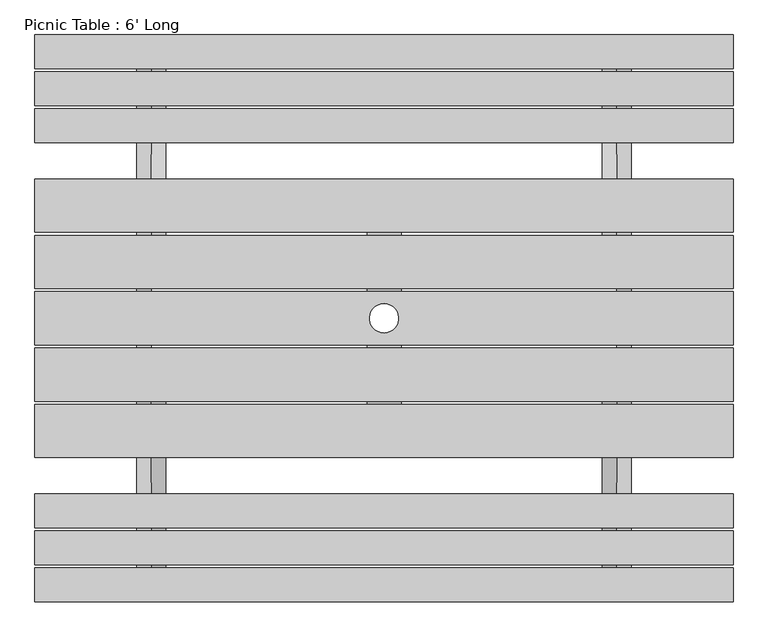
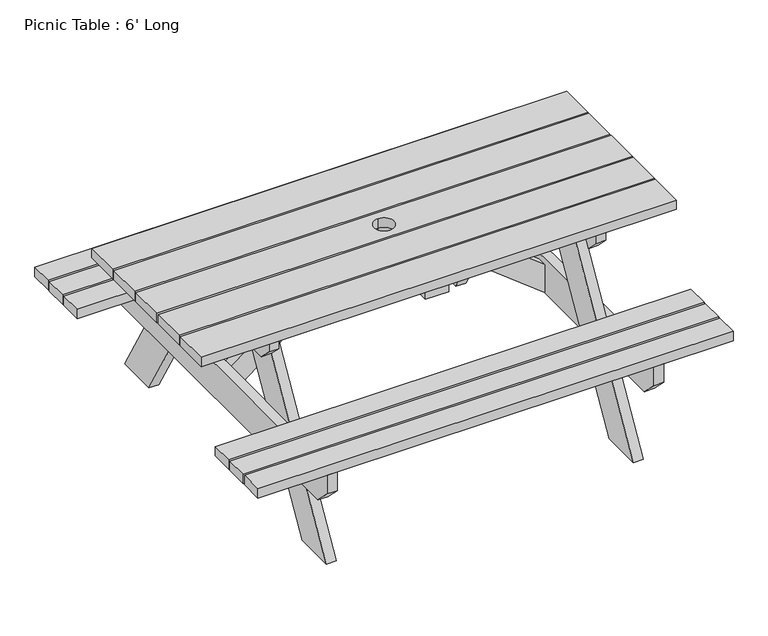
"""IFC4 building model written with IfcOpenShell, lengths in millimetres: furniture geometry, Picnic Table : 6' Long."""

import ifcopenshell
import ifcopenshell.guid

model = None  # the IFC model being written
_history = None  # IfcOwnerHistory: only IFC2X3 demands one
_inside = {}  # id of a spatial element -> (the spatial element, [elements in it])
_under = {}  # id of a project, library or spatial element -> (it, [spatial elements below it])
_declared = {}  # id of a project -> (the project, [libraries it declares])
_typed = {}  # id of a type object -> (the type object, [elements of that type])
_made_of = {}  # id of a material, layer set ... -> (it, [elements and type objects made of it])


def new_model(schema):
    """Start an empty IFC model of exactly this schema.

    Asked for "IFC4X3", IfcOpenShell would pick the latest addendum, in which some entities
    have other attributes; the version numbers below select the first issue.
    IFC2X3 requires an IfcOwnerHistory on every rooted entity: one is made here for all.
    """
    global model, _history
    if schema == "IFC4X3":
        model = ifcopenshell.file(schema_version=(4, 3, 0, 0))
    else:
        model = ifcopenshell.file(schema=schema)
    _inside.clear()
    _under.clear()
    _declared.clear()
    _typed.clear()
    _made_of.clear()
    _history = None
    if model.schema == "IFC2X3":
        org = make("IfcOrganization", Name="unknown")
        user = make(
            "IfcPersonAndOrganization",
            ThePerson=make("IfcPerson", FamilyName="unknown"),
            TheOrganization=org,
        )
        app = make(
            "IfcApplication",
            ApplicationDeveloper=org,
            Version="unknown",
            ApplicationFullName="unknown",
            ApplicationIdentifier="unknown",
        )
        _history = make(
            "IfcOwnerHistory",
            OwningUser=user,
            OwningApplication=app,
            ChangeAction="ADDED",
            CreationDate=0,
        )
    return model


def make(cls, **values):
    """One entity of the class cls with the attributes given. An attribute that is None is left unset."""
    return model.create_entity(
        cls, **{name: value for name, value in values.items() if value is not None}
    )


def rooted(cls, **values):
    """An entity with a GlobalId (a new one), such as an element, a storey or a relation."""
    return make(cls, GlobalId=ifcopenshell.guid.new(), OwnerHistory=_history, **values)


def si_unit(unit_type, name, prefix=None):
    """IfcSIUnit, for example si_unit("LENGTHUNIT", "METRE", prefix="MILLI")."""
    return make("IfcSIUnit", UnitType=unit_type, Prefix=prefix, Name=name)


def assignment(units):
    """IfcUnitAssignment: the units of a project."""
    return None if units is None else make("IfcUnitAssignment", Units=units)


def point(xyz):
    """IfcCartesianPoint."""
    return None if xyz is None else make("IfcCartesianPoint", Coordinates=xyz)


def direction(xyz):
    """IfcDirection."""
    return None if xyz is None else make("IfcDirection", DirectionRatios=xyz)


def frame(location, z_axis=None, x_axis=None):
    """IfcAxis2Placement3D, a coordinate frame: its origin and axes. An axis left out is left unset."""
    return make(
        "IfcAxis2Placement3D",
        Location=point(location),
        Axis=direction(z_axis),
        RefDirection=direction(x_axis),
    )


def frame_2d(location, x_axis=None):
    """IfcAxis2Placement2D, a coordinate frame in the plane: its origin and x axis."""
    return make(
        "IfcAxis2Placement2D", Location=point(location), RefDirection=direction(x_axis)
    )


def origin():
    """The frame at (0, 0, 0) with its axes left unset."""
    return frame((0.0, 0.0, 0.0))


def origin_2d():
    """The frame at (0, 0) in the plane with its x axis left unset."""
    return frame_2d((0.0, 0.0))


def place(relative_to, where):
    """IfcLocalPlacement: puts the frame where relative to a parent placement (None: the world)."""
    return make(
        "IfcLocalPlacement", PlacementRelTo=relative_to, RelativePlacement=where
    )


def context(
    kind, dimensions, precision=None, world=None, true_north=None, identifier=None
):
    """IfcGeometricRepresentationContext, for example the 3D "Model" context."""
    return make(
        "IfcGeometricRepresentationContext",
        ContextIdentifier=identifier,
        ContextType=kind,
        CoordinateSpaceDimension=dimensions,
        Precision=precision,
        WorldCoordinateSystem=world,
        TrueNorth=true_north,
    )


def project(units=None, contexts=None):
    """IfcProject with its units and contexts."""
    return rooted(
        "IfcProject",
        Name="project",
        RepresentationContexts=contexts,
        UnitsInContext=assignment(units),
    )


def spatial(cls, under=None, at=None, **own):
    """A site, building, storey or space (cls), placed at a placement, below another one or the project."""
    s = rooted(cls, ObjectPlacement=at, **own)
    if under is not None:
        _under.setdefault(under.id(), (under, []))[1].append(s)
    return s


def polyline(points):
    """IfcPolyline through the points."""
    return make("IfcPolyline", Points=[point(p) for p in points])


def circle_curve(where, radius):
    """IfcCircle in the frame where."""
    return make("IfcCircle", Position=where, Radius=radius)


def trimmed(basis, trim1, trim2, sense, master):
    """IfcTrimmedCurve: the piece of a basis curve between two trims."""
    return make(
        "IfcTrimmedCurve",
        BasisCurve=basis,
        Trim1=trim1,
        Trim2=trim2,
        SenseAgreement=sense,
        MasterRepresentation=master,
    )


def segment(curve, same_sense, transition):
    """IfcCompositeCurveSegment."""
    return make(
        "IfcCompositeCurveSegment",
        Transition=transition,
        SameSense=same_sense,
        ParentCurve=curve,
    )


def composite_curve(segments, self_intersect=None):
    """IfcCompositeCurve: segments joined end to end."""
    return make("IfcCompositeCurve", Segments=segments, SelfIntersect=self_intersect)


def outline(outer, holes=None, kind="AREA"):
    """IfcArbitraryClosedProfileDef: a profile drawn as a closed curve; with holes, ...WithVoids."""
    if holes is None:
        return make("IfcArbitraryClosedProfileDef", ProfileType=kind, OuterCurve=outer)
    return make(
        "IfcArbitraryProfileDefWithVoids",
        ProfileType=kind,
        OuterCurve=outer,
        InnerCurves=holes,
    )


def extrude(swept, where, along, depth):
    """IfcExtrudedAreaSolid: the profile swept, set in the frame where, extruded along a direction by depth."""
    return make(
        "IfcExtrudedAreaSolid",
        SweptArea=swept,
        Position=where,
        ExtrudedDirection=direction(along),
        Depth=depth,
    )


def shape(context_of_items, identifier, shape_type, items):
    """IfcShapeRepresentation: the items that make up one representation, for example the "Body"."""
    return make(
        "IfcShapeRepresentation",
        ContextOfItems=context_of_items,
        RepresentationIdentifier=identifier,
        RepresentationType=shape_type,
        Items=items,
    )


def source(mapping_origin, context_of_items, identifier, shape_type, items):
    """IfcRepresentationMap: a shape defined once, which mapped items show again and again."""
    return make(
        "IfcRepresentationMap",
        MappingOrigin=mapping_origin,
        MappedRepresentation=shape(context_of_items, identifier, shape_type, items),
    )


def transform(
    local_origin,
    x_axis=None,
    y_axis=None,
    z_axis=None,
    scale=None,
    scale2=None,
    scale3=None,
    uniform=True,
):
    """IfcCartesianTransformationOperator3D, or its non-uniform kind. x_axis, y_axis, z_axis: its Axis1, 2, 3."""
    if uniform:
        return make(
            "IfcCartesianTransformationOperator3D",
            Axis1=direction(x_axis),
            Axis2=direction(y_axis),
            LocalOrigin=point(local_origin),
            Scale=scale,
            Axis3=direction(z_axis),
        )
    return make(
        "IfcCartesianTransformationOperator3DnonUniform",
        Axis1=direction(x_axis),
        Axis2=direction(y_axis),
        LocalOrigin=point(local_origin),
        Scale=scale,
        Axis3=direction(z_axis),
        Scale2=scale2,
        Scale3=scale3,
    )


def mapped(mapping_source, mapping_target):
    """IfcMappedItem: shows the shape of a source again, moved by a transform."""
    return make(
        "IfcMappedItem", MappingSource=mapping_source, MappingTarget=mapping_target
    )


def made_of(thing, what):
    """Note that an element or type object is made of a material, layer set ...; save() writes the relation."""
    if what is not None:
        _made_of.setdefault(what.id(), (what, []))[1].append(thing)
    return thing


def element(
    cls,
    number,
    at=None,
    inside=None,
    cuts=None,
    type_object=None,
    material=None,
    context=None,
    identifier="Body",
    shape_type=None,
    held_by="IfcProductDefinitionShape",
    body=None,
    shapes=None,
    **own,
):
    """One element of the class cls, such as IfcWall. Its Tag is "e" and its number.

    at: its placement. inside: the storey or other place that contains it. cuts: it is an
    opening in that element (IfcRelVoidsElement). A single representation is given by context,
    identifier, shape_type and body (its items); several are given by shapes. held_by: the class
    of the entity that holds the representations. save() writes the other relations.
    """
    e = rooted(cls, Tag="e%d" % number, ObjectPlacement=at, **own)
    if body is not None:
        shapes = [shape(context, identifier, shape_type, body)]
    if shapes is not None:
        e.Representation = make(held_by, Representations=shapes)
    if inside is not None:
        _inside.setdefault(inside.id(), (inside, []))[1].append(e)
    if cuts is not None:
        rooted(
            "IfcRelVoidsElement", RelatingBuildingElement=cuts, RelatedOpeningElement=e
        )
    if type_object is not None:
        _typed.setdefault(type_object.id(), (type_object, []))[1].append(e)
    return made_of(e, material)


def aggregate(whole, parts):
    """IfcRelAggregates: a whole, such as a stair, and the parts it consists of."""
    return rooted("IfcRelAggregates", RelatingObject=whole, RelatedObjects=parts)


def save(model, path):
    """Write the relations noted so far, then the file.

    IfcRelAggregates (storeys below a building ...), IfcRelContainedInSpatialStructure (elements
    in a storey), IfcRelDefinesByType, IfcRelAssociatesMaterial and IfcRelDeclares: one each for
    every whole, place, type object, material and project.
    """
    for whole, parts in _under.values():
        aggregate(whole, parts)
    for where, things in _inside.values():
        rooted(
            "IfcRelContainedInSpatialStructure",
            RelatedElements=things,
            RelatingStructure=where,
        )
    for kind, things in _typed.values():
        rooted("IfcRelDefinesByType", RelatedObjects=things, RelatingType=kind)
    for what, things in _made_of.values():
        rooted("IfcRelAssociatesMaterial", RelatedObjects=things, RelatingMaterial=what)
    for by, libraries in _declared.values():
        rooted("IfcRelDeclares", RelatingContext=by, RelatedDefinitions=libraries)
    model.write(path)


def picnic_table_6_long_ec7e8ce9(model_context):
    return source(origin(), model_context, "Body", "SweptSolid", [
        extrude(outline(polyline([(914.4, 742.95), (914.4, 654.05), (-914.4, 654.05), (-914.4, 742.95), (914.4, 742.95)])), frame((0.0, 0.0, 419.1), z_axis=(0.0, 0.0, 1.0), x_axis=(1.0, 0.0, 0.0)), (0.0, 0.0, 1.0), 38.1),
        extrude(outline(polyline([(914.4, 646.1125), (914.4, 557.2125), (-914.4, 557.2125), (-914.4, 646.1125), (914.4, 646.1125)])), frame((0.0, 0.0, 419.1), z_axis=(0.0, 0.0, 1.0), x_axis=(1.0, 0.0, 0.0)), (0.0, 0.0, 1.0), 38.1),
        extrude(outline(polyline([(914.4, 549.275), (914.4, 460.375), (-914.4, 460.375), (-914.4, 549.275), (914.4, 549.275)])), frame((0.0, 0.0, 419.1), z_axis=(0.0, 0.0, 1.0), x_axis=(1.0, 0.0, 0.0)), (0.0, 0.0, 1.0), 38.1),
        extrude(outline(polyline([(914.4, -654.05), (914.4, -742.95), (-914.4, -742.95), (-914.4, -654.05), (914.4, -654.05)])), frame((0.0, 0.0, 419.1), z_axis=(0.0, 0.0, 1.0), x_axis=(1.0, 0.0, 0.0)), (0.0, 0.0, 1.0), 38.1),
        extrude(outline(polyline([(914.4, -557.2125), (914.4, -646.1125), (-914.4, -646.1125), (-914.4, -557.2125), (914.4, -557.2125)])), frame((0.0, 0.0, 419.1), z_axis=(0.0, 0.0, 1.0), x_axis=(1.0, 0.0, 0.0)), (0.0, 0.0, 1.0), 38.1),
        extrude(outline(polyline([(914.4, -460.375), (914.4, -549.275), (-914.4, -549.275), (-914.4, -460.375), (914.4, -460.375)])), frame((0.0, 0.0, 419.1), z_axis=(0.0, 0.0, 1.0), x_axis=(1.0, 0.0, 0.0)), (0.0, 0.0, 1.0), 38.1),
        extrude(outline(polyline([(-92.6883348, 723.9), (-510.6321947, 0.0), (-671.9438599, 0.0), (-254.0, 723.9), (-92.6883348, 723.9)])), frame((-609.6, 0.0, 0.0), z_axis=(1.0, 0.0, 0.0), x_axis=(0.0, 1.0, 0.0)), (0.0, 0.0, 1.0), 38.1),
        extrude(outline(polyline([(-355.6, 723.9), (355.6, 723.9), (355.6, 685.8), (304.8, 635.0), (-304.8, 635.0), (-355.6, 685.8), (-355.6, 723.9)])), frame((-647.7, 0.0, 0.0), z_axis=(1.0, 0.0, 0.0), x_axis=(0.0, 1.0, 0.0)), (0.0, 0.0, 1.0), 38.1),
        extrude(outline(polyline([(-742.95, 419.1), (742.95, 419.1), (742.95, 342.9), (679.45, 279.4), (-679.45, 279.4), (-742.95, 342.9), (-742.95, 419.1)])), frame((-647.7, 0.0, 0.0), z_axis=(1.0, 0.0, 0.0), x_axis=(0.0, 1.0, 0.0)), (0.0, 0.0, 1.0), 38.1),
        extrude(outline(polyline([(92.6883348, 723.9), (254.0, 723.9), (671.9438599, 0.0), (510.6321947, 0.0), (92.6883348, 723.9)])), frame((-609.6, 0.0, 0.0), z_axis=(1.0, 0.0, 0.0), x_axis=(0.0, 1.0, 0.0)), (0.0, 0.0, 1.0), 38.1),
        extrude(outline(polyline([(-92.6883348, 723.9), (-510.6321947, 0.0), (-671.9438599, 0.0), (-254.0, 723.9), (-92.6883348, 723.9)])), frame((571.5, 0.0, 0.0), z_axis=(1.0, 0.0, 0.0), x_axis=(0.0, 1.0, 0.0)), (0.0, 0.0, 1.0), 38.1),
        extrude(outline(polyline([(-355.6, 723.9), (355.6, 723.9), (355.6, 685.8), (304.8, 635.0), (-304.8, 635.0), (-355.6, 685.8), (-355.6, 723.9)])), frame((609.6, 0.0, 0.0), z_axis=(1.0, 0.0, 0.0), x_axis=(0.0, 1.0, 0.0)), (0.0, 0.0, 1.0), 38.1),
        extrude(outline(polyline([(-742.95, 419.1), (742.95, 419.1), (742.95, 342.9), (679.45, 279.4), (-679.45, 279.4), (-742.95, 342.9), (-742.95, 419.1)])), frame((609.6, 0.0, 0.0), z_axis=(1.0, 0.0, 0.0), x_axis=(0.0, 1.0, 0.0)), (0.0, 0.0, 1.0), 38.1),
        extrude(outline(polyline([(92.6883348, 723.9), (254.0, 723.9), (671.9438599, 0.0), (510.6321947, 0.0), (92.6883348, 723.9)])), frame((571.5, 0.0, 0.0), z_axis=(1.0, 0.0, 0.0), x_axis=(0.0, 1.0, 0.0)), (0.0, 0.0, 1.0), 38.1),
        extrude(outline(polyline([(723.9, 44.1628837), (282.1321084, 609.6), (394.9478277, 609.6), (723.9, 188.5604197), (723.9, 44.1628837)])), frame((0.0, -19.05, 0.0), z_axis=(0.0, 1.0, 0.0), x_axis=(0.0, 0.0, 1.0)), (0.0, 0.0, 1.0), 38.1),
        extrude(outline(polyline([(723.9, -44.1628837), (723.9, -188.5604197), (394.9478277, -609.6), (282.1321084, -609.6), (723.9, -44.1628837)])), frame((0.0, -19.05, 0.0), z_axis=(0.0, 1.0, 0.0), x_axis=(0.0, 0.0, 1.0)), (0.0, 0.0, 1.0), 38.1),
        extrude(outline(polyline([(914.4, 365.125), (914.4, 225.425), (-914.4, 225.425), (-914.4, 365.125), (914.4, 365.125)])), frame((0.0, 0.0, 723.9), z_axis=(0.0, 0.0, 1.0), x_axis=(1.0, 0.0, 0.0)), (0.0, 0.0, 1.0), 38.1),
        extrude(outline(polyline([(914.4, 69.85), (914.4, -69.85), (-914.4, -69.85), (-914.4, 69.85), (914.4, 69.85)]), holes=[composite_curve([segment(trimmed(circle_curve(origin_2d(), 38.1), [point((0.0, -38.1))], [point((0.0, 38.1))], True, "CARTESIAN"), True, "CONTINUOUS"), segment(trimmed(circle_curve(origin_2d(), 38.1), [point((0.0, 38.1))], [point((0.0, -38.1))], True, "CARTESIAN"), True, "CONTINUOUS")], self_intersect=False)]), frame((0.0, 0.0, 723.9), z_axis=(0.0, 0.0, 1.0), x_axis=(1.0, 0.0, 0.0)), (0.0, 0.0, 1.0), 38.1),
        extrude(outline(polyline([(914.4, -225.425), (914.4, -365.125), (-914.4, -365.125), (-914.4, -225.425), (914.4, -225.425)])), frame((0.0, 0.0, 723.9), z_axis=(0.0, 0.0, 1.0), x_axis=(1.0, 0.0, 0.0)), (0.0, 0.0, 1.0), 38.1),
        extrude(outline(polyline([(914.4, 217.4875), (914.4, 77.7875), (-914.4, 77.7875), (-914.4, 217.4875), (914.4, 217.4875)])), frame((0.0, 0.0, 723.9), z_axis=(0.0, 0.0, 1.0), x_axis=(1.0, 0.0, 0.0)), (0.0, 0.0, 1.0), 38.1),
        extrude(outline(polyline([(914.4, -77.7875), (914.4, -217.4875), (-914.4, -217.4875), (-914.4, -77.7875), (914.4, -77.7875)])), frame((0.0, 0.0, 723.9), z_axis=(0.0, 0.0, 1.0), x_axis=(1.0, 0.0, 0.0)), (0.0, 0.0, 1.0), 38.1),
        extrude(outline(polyline([(44.7371163, -352.425), (-44.1628837, -352.425), (-44.1628837, 352.425), (44.7371163, 352.425), (44.7371163, -352.425)]), holes=[composite_curve([segment(trimmed(circle_curve(origin_2d(), 38.1), [point((0.0, -38.1))], [point((0.0, 38.1))], True, "CARTESIAN"), True, "CONTINUOUS"), segment(trimmed(circle_curve(origin_2d(), 38.1), [point((0.0, 38.1))], [point((0.0, -38.1))], True, "CARTESIAN"), True, "CONTINUOUS")], self_intersect=False)]), frame((0.0, 0.0, 685.8), z_axis=(0.0, 0.0, 1.0), x_axis=(1.0, 0.0, 0.0)), (0.0, 0.0, 1.0), 38.1),
    ])


if __name__ == "__main__":
    model = new_model("IFC4")
    model_context = context("Model", 3, world=origin())
    ifc_project = project(units=[si_unit("LENGTHUNIT", "METRE", prefix="MILLI")], contexts=[model_context])
    site = spatial("IfcSite", under=ifc_project)
    building = spatial("IfcBuilding", under=site)
    placement = place(None, origin())
    picnic_table_6_long_shape = picnic_table_6_long_ec7e8ce9(model_context)
    element("IfcFurniture", 1, ObjectType="Picnic Table : 6' Long", at=placement, inside=building, context=model_context, shape_type="MappedRepresentation", body=[
        mapped(picnic_table_6_long_shape, transform((0.0, 0.0, 0.0), x_axis=(1.0, 0.0, 0.0), y_axis=(0.0, 1.0, 0.0), z_axis=(0.0, 0.0, 1.0))),
    ])
    save(model, "model.ifc")
